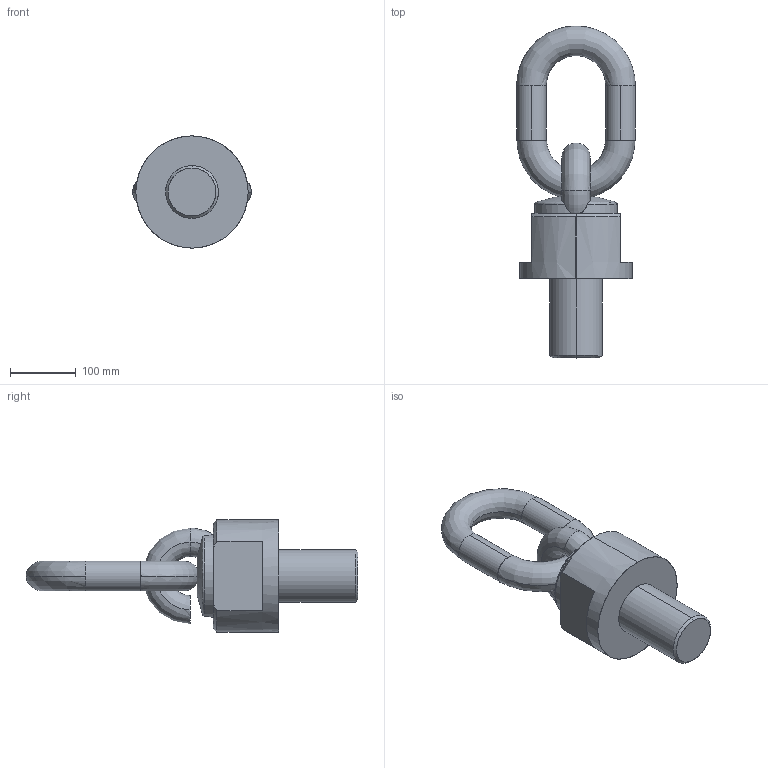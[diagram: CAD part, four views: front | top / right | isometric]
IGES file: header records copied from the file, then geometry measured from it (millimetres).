
Start section: START RECORD GO HERE.
Global section: file name: C80030080120.igs; native system: DASSAULT SYSTEMES CATIA V5 R20 - www.3ds.com; preprocessor: CATIA Version 5 Release 20 ; author: Utente; organization: NB04-ASUS; date: 20200412.153101; units: millimetre
Bounding box: 180 x 503 x 170 mm (x, y, z)
Surface area: 233593.9 mm2 (no closed solid volume)
Topology: 0 solids, 0 shells, 42 faces, 233 edges, 233 vertices
Faces by surface type: revolution 30, extrusion 12
